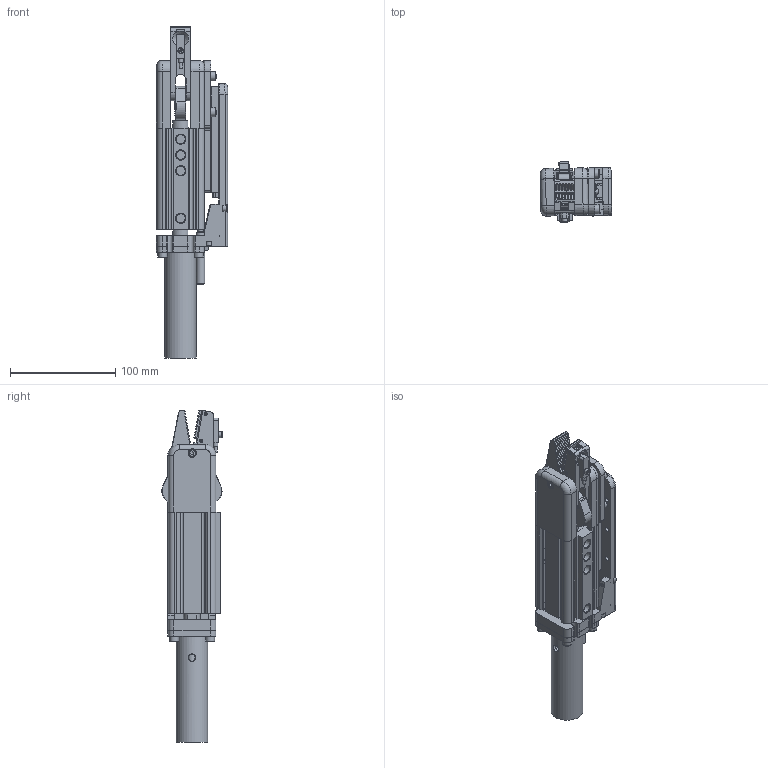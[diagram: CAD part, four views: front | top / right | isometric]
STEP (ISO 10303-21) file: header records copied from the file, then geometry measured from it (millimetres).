
FILE_DESCRIPTION(/* description */ (''),/* implementation_level */ '2;1');
FILE_NAME(/* name */ '8Y00399-GRP32B-30CP--30.stp',/* time_stamp */ '2023-02-22T13:27:19+08:00',/* author */ (''),/* organization */ (''),/* preprocessor_version */ 'ST-DEVELOPER v16',/* originating_system */ 'SIEMENS PLM Software NX 10.0',/* authorisation */ '');
FILE_SCHEMA (('AUTOMOTIVE_DESIGN { 1 0 10303 214 3 1 1 1 }'));
Products named in the file (1): _model40
Bounding box: 67.52 x 57.23 x 314.81 mm (x, y, z)
Volume: 412832.6 mm3; surface area: 159571.3 mm2
Topology: 16 solids, 39 shells, 2679 faces, 5731 edges, 3131 vertices
Faces by surface type: plane 2111, cylinder 352, cone 154, torus 37, sphere 15, bspline 10
Full cylindrical faces by diameter (mm): 2.4 x1, 2.5 x4, 3 x5, 3.1 x1, 3.3 x6, 3.4 x3, 4 x12, 4.1 x1, 4.2 x14, 4.5 x11, 5 x14, 5.2 x8, 5.5 x9, 6 x9, 6.5 x1, 6.647 x1, 7 x12, 8 x10, 8.1 x1, 8.5 x13, 8.566 x4, 9 x12, 10 x5, 13 x1, 13.5 x1, 14 x1, 15 x2, 16 x3, 17 x12, 20 x3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
Entity records: 90981 total; most frequent: CARTESIAN_POINT 17688, DIRECTION 11428, ORIENTED_EDGE 10280, EDGE_CURVE 5140, LINE 3900, VECTOR 3900, AXIS2_PLACEMENT_3D 3764, EDGE_LOOP 3201
